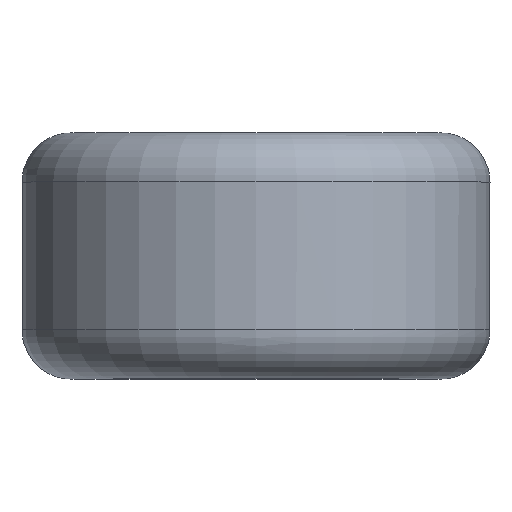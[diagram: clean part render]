
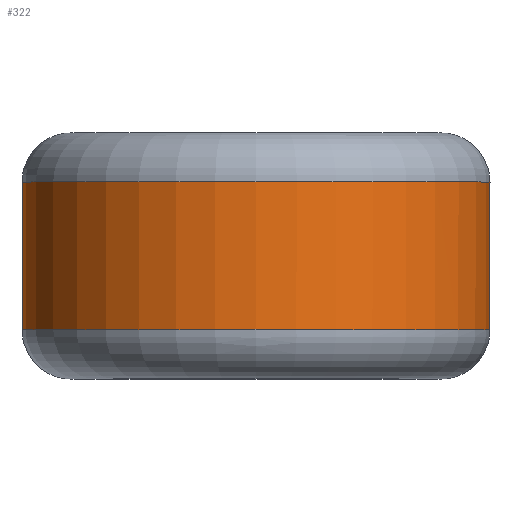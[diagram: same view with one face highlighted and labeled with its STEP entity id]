
A CAD part, top view. The second image highlights one B-rep face of the part: STEP entity #322.
In plain terms, the highlighted cylindrical face has radius 4.75 mm (diameter 9.5 mm), a full revolution.
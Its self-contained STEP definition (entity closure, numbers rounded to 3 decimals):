
#26=B_SPLINE_CURVE_WITH_KNOTS('',3,(#893,#894,#895,#896,#897,#898,#899,
#900,#901,#902,#903,#904),.UNSPECIFIED.,.F.,.F.,(4,1,1,1,1,2,1,1,4),(-0.222,
-0.193,-0.164,-0.135,-0.092,
-0.078,-0.039,-0.023,0.),
 .UNSPECIFIED.);
#28=B_SPLINE_CURVE_WITH_KNOTS('',3,(#972,#973,#974,#975,#976,#977,#978,
#979,#980,#981,#982,#983,#984),.UNSPECIFIED.,.F.,.F.,(4,1,1,1,1,1,2,1,1,
4),(-0.222,-0.193,-0.164,-0.135,
-0.106,-0.092,-0.078,-0.039,
-0.023,0.),.UNSPECIFIED.);
#76=FACE_OUTER_BOUND('',#96,.T.);
#96=EDGE_LOOP('',(#257,#258,#259,#260,#261,#262,#263,#264,#265,#266));
#109=LINE('',#966,#112);
#112=VECTOR('',#427,4.75);
#124=CIRCLE('',#367,4.75);
#125=CIRCLE('',#368,4.75);
#126=CIRCLE('',#369,4.75);
#127=CIRCLE('',#371,4.75);
#128=CIRCLE('',#372,4.75);
#129=CIRCLE('',#373,4.75);
#149=VERTEX_POINT('',#889);
#150=VERTEX_POINT('',#891);
#153=VERTEX_POINT('',#958);
#154=VERTEX_POINT('',#961);
#155=VERTEX_POINT('',#965);
#156=VERTEX_POINT('',#967);
#157=VERTEX_POINT('',#969);
#158=VERTEX_POINT('',#971);
#186=EDGE_CURVE('',#149,#150,#26,.T.);
#191=EDGE_CURVE('',#150,#153,#124,.T.);
#192=EDGE_CURVE('',#154,#149,#125,.T.);
#193=EDGE_CURVE('',#153,#154,#126,.T.);
#194=EDGE_CURVE('',#154,#155,#109,.T.);
#195=EDGE_CURVE('',#155,#156,#127,.T.);
#196=EDGE_CURVE('',#156,#157,#128,.T.);
#197=EDGE_CURVE('',#157,#158,#28,.T.);
#198=EDGE_CURVE('',#158,#155,#129,.T.);
#257=ORIENTED_EDGE('',*,*,#186,.T.);
#258=ORIENTED_EDGE('',*,*,#191,.T.);
#259=ORIENTED_EDGE('',*,*,#193,.T.);
#260=ORIENTED_EDGE('',*,*,#194,.T.);
#261=ORIENTED_EDGE('',*,*,#195,.T.);
#262=ORIENTED_EDGE('',*,*,#196,.T.);
#263=ORIENTED_EDGE('',*,*,#197,.T.);
#264=ORIENTED_EDGE('',*,*,#198,.T.);
#265=ORIENTED_EDGE('',*,*,#194,.F.);
#266=ORIENTED_EDGE('',*,*,#192,.T.);
#312=CYLINDRICAL_SURFACE('',#370,4.75);
#322=ADVANCED_FACE('',(#76),#312,.T.);
#367=AXIS2_PLACEMENT_3D('',#960,#419,#420);
#368=AXIS2_PLACEMENT_3D('',#962,#421,#422);
#369=AXIS2_PLACEMENT_3D('',#963,#423,#424);
#370=AXIS2_PLACEMENT_3D('',#964,#425,#426);
#371=AXIS2_PLACEMENT_3D('',#968,#428,#429);
#372=AXIS2_PLACEMENT_3D('',#970,#430,#431);
#373=AXIS2_PLACEMENT_3D('',#985,#432,#433);
#419=DIRECTION('center_axis',(0.,-1.,0.));
#420=DIRECTION('ref_axis',(-1.,0.,0.));
#421=DIRECTION('center_axis',(0.,-1.,0.));
#422=DIRECTION('ref_axis',(-1.,0.,0.));
#423=DIRECTION('center_axis',(0.,-1.,0.));
#424=DIRECTION('ref_axis',(-1.,0.,0.));
#425=DIRECTION('center_axis',(0.,-1.,0.));
#426=DIRECTION('ref_axis',(1.,0.,0.));
#427=DIRECTION('',(0.,-1.,0.));
#428=DIRECTION('center_axis',(0.,1.,0.));
#429=DIRECTION('ref_axis',(-1.,0.,0.));
#430=DIRECTION('center_axis',(0.,1.,0.));
#431=DIRECTION('ref_axis',(-1.,0.,0.));
#432=DIRECTION('center_axis',(0.,1.,0.));
#433=DIRECTION('ref_axis',(-1.,0.,0.));
#889=CARTESIAN_POINT('',(-2.434,1.5,-4.079));
#891=CARTESIAN_POINT('',(-1.503,1.5,-4.506));
#893=CARTESIAN_POINT('Ctrl Pts',(-2.434,1.5,-4.079));
#894=CARTESIAN_POINT('Ctrl Pts',(-2.467,1.412,-4.06));
#895=CARTESIAN_POINT('Ctrl Pts',(-2.493,1.214,-4.043));
#896=CARTESIAN_POINT('Ctrl Pts',(-2.402,0.934,-4.099));
#897=CARTESIAN_POINT('Ctrl Pts',(-2.169,0.715,-4.231));
#898=CARTESIAN_POINT('Ctrl Pts',(-1.892,0.709,-4.361));
#899=CARTESIAN_POINT('Ctrl Pts',(-1.734,0.798,-4.422));
#900=CARTESIAN_POINT('Ctrl Pts',(-1.596,0.892,-4.475));
#901=CARTESIAN_POINT('Ctrl Pts',(-1.481,1.04,-4.514));
#902=CARTESIAN_POINT('Ctrl Pts',(-1.44,1.301,-4.526));
#903=CARTESIAN_POINT('Ctrl Pts',(-1.47,1.431,-4.517));
#904=CARTESIAN_POINT('Ctrl Pts',(-1.503,1.5,-4.506));
#958=CARTESIAN_POINT('',(0.,1.5,-4.75));
#960=CARTESIAN_POINT('Origin',(0.,1.5,0.));
#961=CARTESIAN_POINT('',(-4.75,1.5,0.));
#962=CARTESIAN_POINT('Origin',(0.,1.5,0.));
#963=CARTESIAN_POINT('Origin',(0.,1.5,0.));
#964=CARTESIAN_POINT('Origin',(0.,0.,0.));
#965=CARTESIAN_POINT('',(-4.75,-1.5,0.));
#966=CARTESIAN_POINT('',(-4.75,0.,0.));
#967=CARTESIAN_POINT('',(0.,-1.5,4.75));
#968=CARTESIAN_POINT('Origin',(0.,-1.5,0.));
#969=CARTESIAN_POINT('',(2.434,-1.5,-4.079));
#970=CARTESIAN_POINT('Origin',(0.,-1.5,0.));
#971=CARTESIAN_POINT('',(1.503,-1.5,-4.506));
#972=CARTESIAN_POINT('Ctrl Pts',(2.434,-1.5,-4.079));
#973=CARTESIAN_POINT('Ctrl Pts',(2.467,-1.412,-4.06));
#974=CARTESIAN_POINT('Ctrl Pts',(2.493,-1.213,-4.043));
#975=CARTESIAN_POINT('Ctrl Pts',(2.403,-0.934,-4.099));
#976=CARTESIAN_POINT('Ctrl Pts',(2.202,-0.746,-4.212));
#977=CARTESIAN_POINT('Ctrl Pts',(1.984,-0.71,-4.318));
#978=CARTESIAN_POINT('Ctrl Pts',(1.813,-0.754,-4.391));
#979=CARTESIAN_POINT('Ctrl Pts',(1.734,-0.797,-4.422));
#980=CARTESIAN_POINT('Ctrl Pts',(1.596,-0.892,-4.475));
#981=CARTESIAN_POINT('Ctrl Pts',(1.481,-1.04,-4.514));
#982=CARTESIAN_POINT('Ctrl Pts',(1.44,-1.301,-4.526));
#983=CARTESIAN_POINT('Ctrl Pts',(1.47,-1.431,-4.517));
#984=CARTESIAN_POINT('Ctrl Pts',(1.503,-1.5,-4.506));
#985=CARTESIAN_POINT('Origin',(0.,-1.5,0.));
